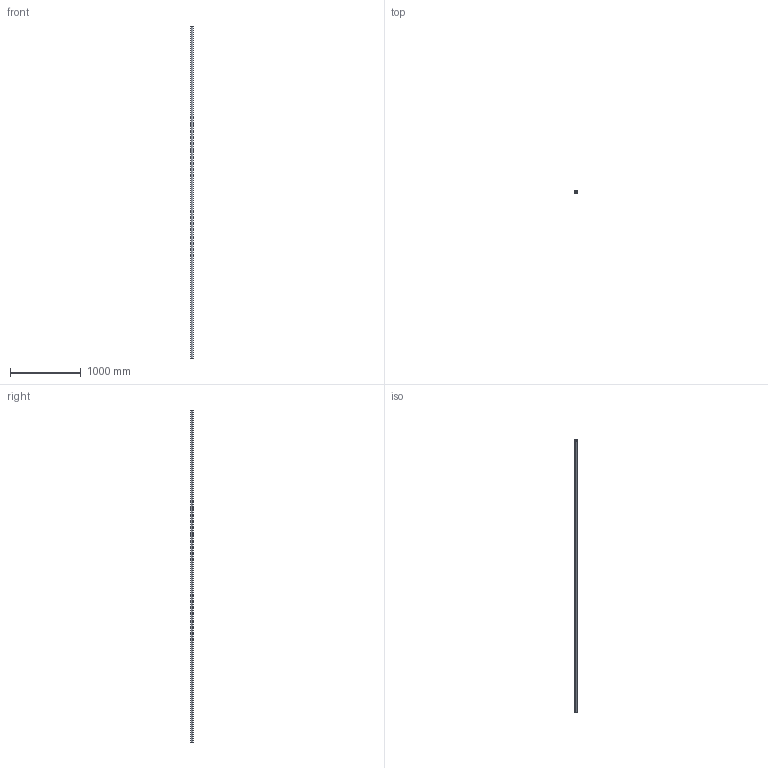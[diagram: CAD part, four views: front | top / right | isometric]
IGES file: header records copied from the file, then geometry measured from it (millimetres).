
Start section: SolidWorks IGES file using analytic representation for surfaces
Global section: file name: C:\Users\IanO\Desktop\L1771_v2\L1771.40_v2\L1771.40_v2_20230705_IGES\L1771.40-4700.igs; native system: SolidWorks 2019; preprocessor: SolidWorks 2019; author: IanO; date: 230705.162659; units: millimetre
Bounding box: 40 x 40 x 4700 mm (x, y, z)
Surface area: 1005334.8 mm2 (no closed solid volume)
Topology: 0 solids, 0 shells, 6 faces, 272 edges, 272 vertices
Faces by surface type: revolution 4, bspline 2
